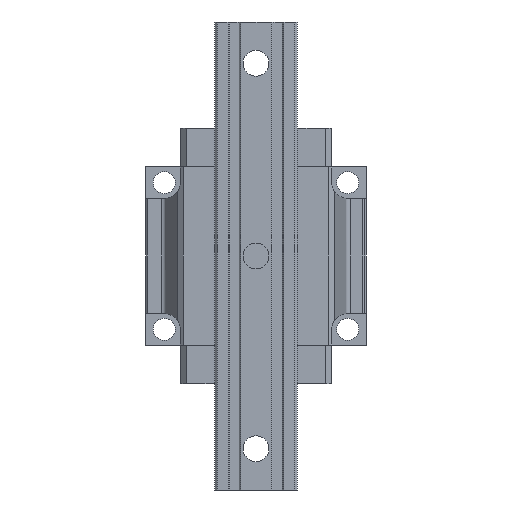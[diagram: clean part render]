
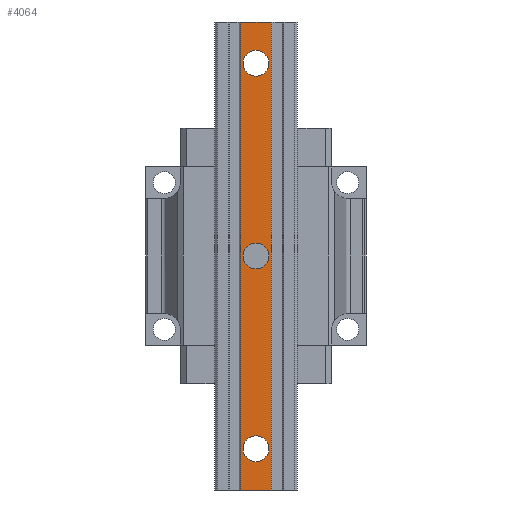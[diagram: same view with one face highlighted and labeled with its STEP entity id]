
A CAD part, front view. The second image highlights one B-rep face of the part: STEP entity #4064.
In plain terms, the highlighted planar face has unit normal (0, -1, 0).
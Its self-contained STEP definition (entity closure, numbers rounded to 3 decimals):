
#2988=DIRECTION('',(-1.,0.,0.));
#2989=VECTOR('',#2988,16.5);
#2990=CARTESIAN_POINT('',(8.25,-38.,-127.5));
#2991=LINE('',#2990,#2989);
#2992=DIRECTION('',(0.,0.,-1.));
#2993=VECTOR('',#2992,255.);
#2994=CARTESIAN_POINT('',(8.25,-38.,127.5));
#2995=LINE('',#2994,#2993);
#2996=CARTESIAN_POINT('',(0.,-38.,0.));
#2997=DIRECTION('',(0.,-1.,0.));
#2998=DIRECTION('',(1.,0.,0.));
#2999=AXIS2_PLACEMENT_3D('',#2996,#2997,#2998);
#3001=CARTESIAN_POINT('',(0.,-38.,0.));
#3002=DIRECTION('',(0.,-1.,0.));
#3003=DIRECTION('',(-1.,0.,0.));
#3004=AXIS2_PLACEMENT_3D('',#3001,#3002,#3003);
#3006=CARTESIAN_POINT('',(0.,-38.,105.));
#3007=DIRECTION('',(0.,-1.,0.));
#3008=DIRECTION('',(1.,0.,0.));
#3009=AXIS2_PLACEMENT_3D('',#3006,#3007,#3008);
#3011=CARTESIAN_POINT('',(0.,-38.,105.));
#3012=DIRECTION('',(0.,-1.,0.));
#3013=DIRECTION('',(-1.,0.,0.));
#3014=AXIS2_PLACEMENT_3D('',#3011,#3012,#3013);
#3016=CARTESIAN_POINT('',(0.,-38.,-105.));
#3017=DIRECTION('',(0.,-1.,0.));
#3018=DIRECTION('',(1.,0.,0.));
#3019=AXIS2_PLACEMENT_3D('',#3016,#3017,#3018);
#3021=CARTESIAN_POINT('',(0.,-38.,-105.));
#3022=DIRECTION('',(0.,-1.,0.));
#3023=DIRECTION('',(-1.,0.,0.));
#3024=AXIS2_PLACEMENT_3D('',#3021,#3022,#3023);
#3026=DIRECTION('',(0.,0.,-1.));
#3027=VECTOR('',#3026,255.);
#3028=CARTESIAN_POINT('',(-8.25,-38.,127.5));
#3029=LINE('',#3028,#3027);
#3251=DIRECTION('',(-1.,0.,0.));
#3252=VECTOR('',#3251,16.5);
#3253=CARTESIAN_POINT('',(8.25,-38.,127.5));
#3254=LINE('',#3253,#3252);
#3504=CARTESIAN_POINT('',(-8.25,-38.,-127.5));
#3505=VERTEX_POINT('',#3504);
#3506=CARTESIAN_POINT('',(8.25,-38.,-127.5));
#3507=VERTEX_POINT('',#3506);
#3580=CARTESIAN_POINT('',(8.25,-38.,127.5));
#3581=VERTEX_POINT('',#3580);
#3582=CARTESIAN_POINT('',(-8.25,-38.,127.5));
#3583=VERTEX_POINT('',#3582);
#3584=CARTESIAN_POINT('',(7.,-38.,0.));
#3585=CARTESIAN_POINT('',(-7.,-38.,0.));
#3586=VERTEX_POINT('',#3584);
#3587=VERTEX_POINT('',#3585);
#3588=CARTESIAN_POINT('',(7.,-38.,105.));
#3589=CARTESIAN_POINT('',(-7.,-38.,105.));
#3590=VERTEX_POINT('',#3588);
#3591=VERTEX_POINT('',#3589);
#3592=CARTESIAN_POINT('',(7.,-38.,-105.));
#3593=CARTESIAN_POINT('',(-7.,-38.,-105.));
#3594=VERTEX_POINT('',#3592);
#3595=VERTEX_POINT('',#3593);
#4033=CARTESIAN_POINT('',(-8.25,-38.,-127.5));
#4034=DIRECTION('',(0.,-1.,0.));
#4035=DIRECTION('',(1.,0.,0.));
#4036=AXIS2_PLACEMENT_3D('',#4033,#4034,#4035);
#4037=PLANE('',#4036);
#4038=ORIENTED_EDGE('',*,*,#3725,.T.);
#4040=ORIENTED_EDGE('',*,*,#4039,.F.);
#4042=ORIENTED_EDGE('',*,*,#4041,.F.);
#4043=ORIENTED_EDGE('',*,*,#4025,.T.);
#4044=EDGE_LOOP('',(#4038,#4040,#4042,#4043));
#4045=FACE_OUTER_BOUND('',#4044,.F.);
#4047=ORIENTED_EDGE('',*,*,#4046,.T.);
#4049=ORIENTED_EDGE('',*,*,#4048,.T.);
#4050=EDGE_LOOP('',(#4047,#4049));
#4051=FACE_BOUND('',#4050,.F.);
#4053=ORIENTED_EDGE('',*,*,#4052,.T.);
#4055=ORIENTED_EDGE('',*,*,#4054,.T.);
#4056=EDGE_LOOP('',(#4053,#4055));
#4057=FACE_BOUND('',#4056,.F.);
#4059=ORIENTED_EDGE('',*,*,#4058,.T.);
#4061=ORIENTED_EDGE('',*,*,#4060,.T.);
#4062=EDGE_LOOP('',(#4059,#4061));
#4063=FACE_BOUND('',#4062,.F.);
#4064=ADVANCED_FACE('',(#4045,#4051,#4057,#4063),#4037,.T.);
#3000=CIRCLE('',#2999,7.);
#3005=CIRCLE('',#3004,7.);
#3010=CIRCLE('',#3009,7.);
#3015=CIRCLE('',#3014,7.);
#3020=CIRCLE('',#3019,7.);
#3025=CIRCLE('',#3024,7.);
#3725=EDGE_CURVE('',#3507,#3505,#2991,.T.);
#4025=EDGE_CURVE('',#3581,#3507,#2995,.T.);
#4039=EDGE_CURVE('',#3583,#3505,#3029,.T.);
#4041=EDGE_CURVE('',#3581,#3583,#3254,.T.);
#4046=EDGE_CURVE('',#3586,#3587,#3000,.T.);
#4048=EDGE_CURVE('',#3587,#3586,#3005,.T.);
#4052=EDGE_CURVE('',#3590,#3591,#3010,.T.);
#4054=EDGE_CURVE('',#3591,#3590,#3015,.T.);
#4058=EDGE_CURVE('',#3594,#3595,#3020,.T.);
#4060=EDGE_CURVE('',#3595,#3594,#3025,.T.);
